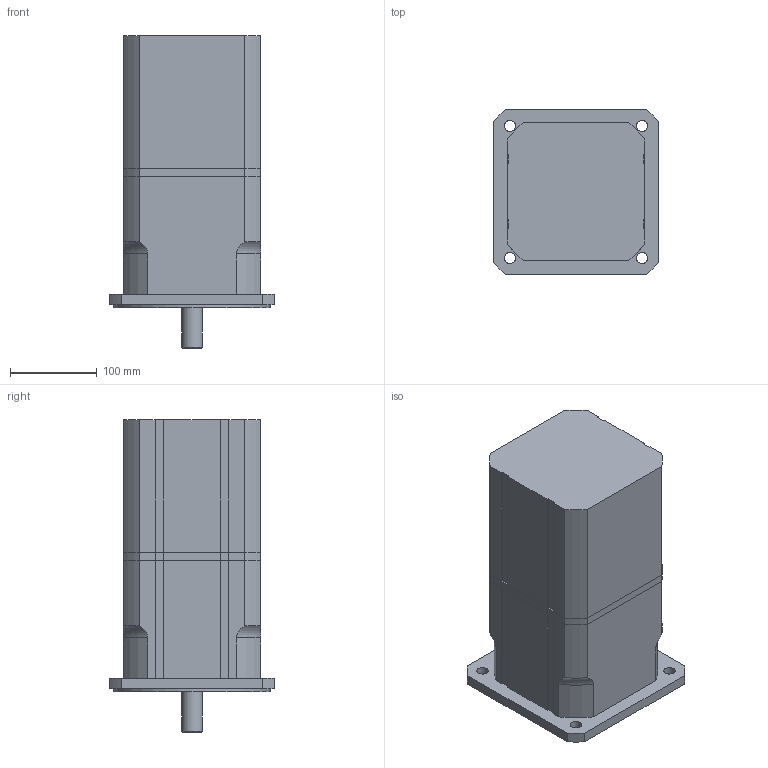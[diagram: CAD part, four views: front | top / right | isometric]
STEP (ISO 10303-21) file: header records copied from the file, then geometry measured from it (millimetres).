
FILE_DESCRIPTION(/* description */ ('Alibre Inc.'),/* implementation_level */ '2;1');
FILE_NAME(/* name */ 'export0',/* time_stamp */ '2011-12-06T15:09:52+01:00',/* author */ (''),/* organization */ (''),/* preprocessor_version */ 'ST-DEVELOPER v12',/* originating_system */ 'Alibre',/* authorisation */ '');
FILE_SCHEMA (('ALIBRE_SCHEMA','CONFIG_CONTROL_DESIGN'));
Length unit declared in the file: millimetre
Products named in the file (5): ID_1
Bounding box: 190 x 190 x 359 mm (x, y, z)
Volume: 8473885.3 mm3; surface area: 373621.5 mm2
Topology: 4 solids, 4 shells, 157 faces, 402 edges, 263 vertices
Faces by surface type: plane 86, cylinder 59, cone 7, torus 4, bspline 1
Full cylindrical faces by diameter (mm): 2.7 x4, 6.647 x1, 13 x4, 20 x5, 22 x2, 24 x2, 25 x1, 180 x1
Entity records: 19096 total; most frequent: CARTESIAN_POINT 4185, ORIENTED_EDGE 2380, DIRECTION 2365, EDGE_CURVE 1190, AXIS2_PLACEMENT_3D 902, VECTOR 844, VERTEX_POINT 834, LINE 806
